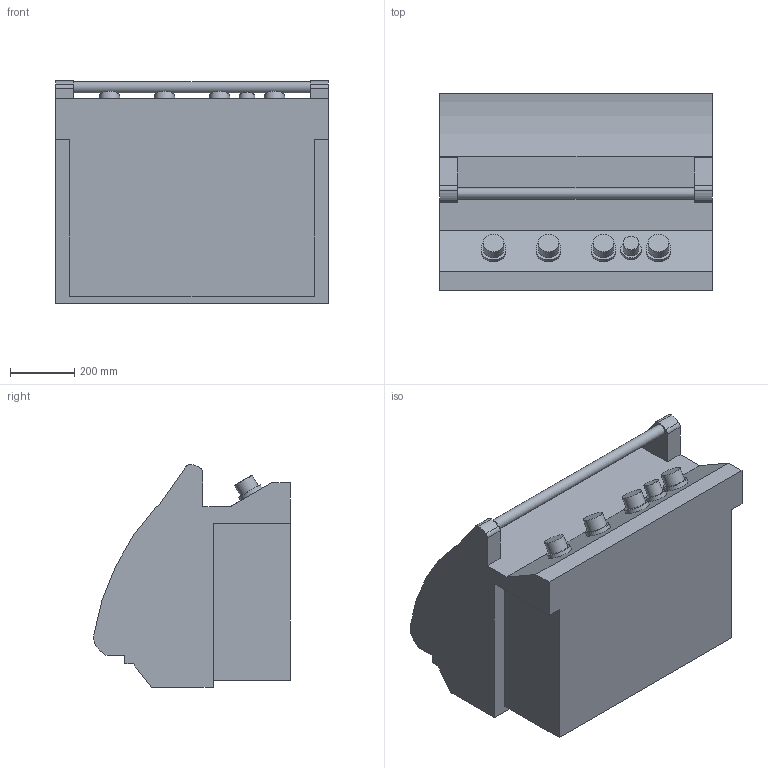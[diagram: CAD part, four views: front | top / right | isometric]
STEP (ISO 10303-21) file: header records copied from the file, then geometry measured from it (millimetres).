
FILE_DESCRIPTION (( 'STEP AP203' ), '1' );
FILE_NAME ('BIG32RB.STEP', '2020-04-24T13:41:16', ( '8DNKR52' ), ( 'Microsoft' ), 'SwSTEP 2.0', 'SolidWorks 2019', '' );
FILE_SCHEMA (( 'CONFIG_CONTROL_DESIGN' ));
Length unit declared in the file: inch
Products named in the file (1): BIG32RB
Bounding box: 850.9 x 613.08 x 695.12 mm (x, y, z)
Volume: 252420847 mm3; surface area: 2719765.3 mm2
Topology: 1 solids, 1 shells, 53 faces, 129 edges, 88 vertices
Faces by surface type: plane 34, cylinder 19
Full cylindrical faces by diameter (mm): 34.925 x1, 49.213 x1, 63.5 x5, 77.787 x4
Entity records: 1543 total; most frequent: DIRECTION 258, CARTESIAN_POINT 248, ORIENTED_EDGE 224, EDGE_CURVE 112, AXIS2_PLACEMENT_3D 92, VERTEX_POINT 82, EDGE_LOOP 76, VECTOR 74
